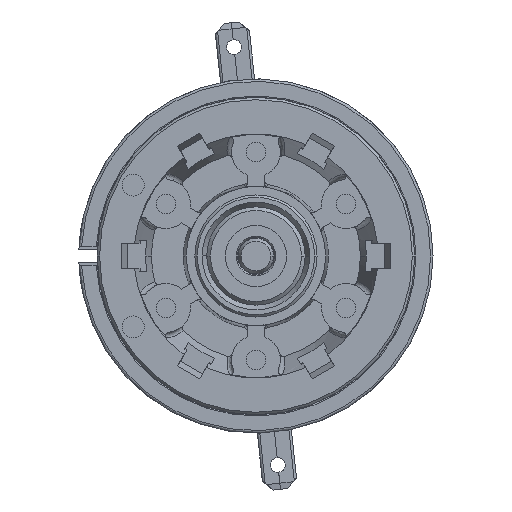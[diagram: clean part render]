
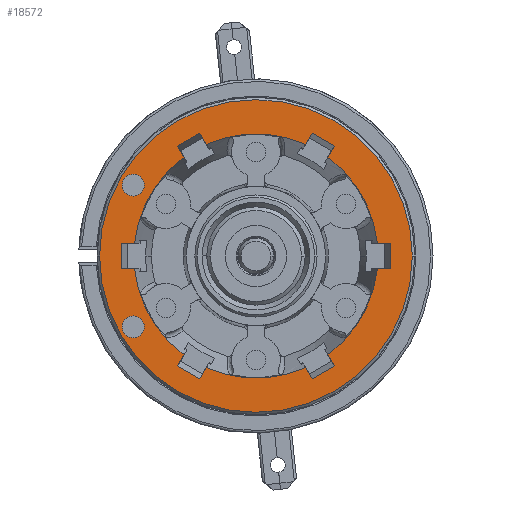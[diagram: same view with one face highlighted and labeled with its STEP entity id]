
A CAD part, left-side view. The second image highlights one B-rep face of the part: STEP entity #18572.
In plain terms, the highlighted planar face has unit normal (-1, 0, 0).
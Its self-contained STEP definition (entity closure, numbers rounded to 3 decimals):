
#6131=CARTESIAN_POINT('',(1.,0.,0.));
#6132=DIRECTION('',(-1.,0.,0.));
#6133=DIRECTION('',(0.,0.994,-0.105));
#6134=AXIS2_PLACEMENT_3D('',#6131,#6132,#6133);
#6144=CARTESIAN_POINT('',(1.,9.945,-1.05));
#6271=CARTESIAN_POINT('',(1.,-9.945,-1.05));
#6281=CARTESIAN_POINT('',(1.,0.,0.));
#6282=DIRECTION('',(-1.,0.,0.));
#6283=DIRECTION('',(0.,-0.588,-0.809));
#6284=AXIS2_PLACEMENT_3D('',#6281,#6282,#6283);
#6335=CARTESIAN_POINT('',(1.,-4.063,-9.137));
#6345=CARTESIAN_POINT('',(1.,0.,0.));
#6346=DIRECTION('',(-1.,0.,0.));
#6347=DIRECTION('',(0.,0.406,-0.914));
#6348=AXIS2_PLACEMENT_3D('',#6345,#6346,#6347);
#6468=CARTESIAN_POINT('',(1.,0.,0.));
#6469=DIRECTION('',(-1.,0.,0.));
#6470=DIRECTION('',(0.,1.,0.));
#6471=AXIS2_PLACEMENT_3D('',#6468,#6469,#6470);
#6476=CARTESIAN_POINT('',(1.,0.,0.));
#6477=DIRECTION('',(-1.,0.,0.));
#6478=DIRECTION('',(0.,-1.,0.));
#6479=AXIS2_PLACEMENT_3D('',#6476,#6477,#6478);
#6484=CARTESIAN_POINT('',(1.,10.05,5.8));
#6485=DIRECTION('',(-1.,0.,0.));
#6486=DIRECTION('',(0.,0.,1.));
#6487=AXIS2_PLACEMENT_3D('',#6484,#6485,#6486);
#6492=CARTESIAN_POINT('',(1.,10.05,5.8));
#6493=DIRECTION('',(-1.,0.,0.));
#6494=DIRECTION('',(0.,0.,-1.));
#6495=AXIS2_PLACEMENT_3D('',#6492,#6493,#6494);
#6500=CARTESIAN_POINT('',(1.,10.05,-5.8));
#6501=DIRECTION('',(-1.,0.,0.));
#6502=DIRECTION('',(0.,0.,1.));
#6503=AXIS2_PLACEMENT_3D('',#6500,#6501,#6502);
#6508=CARTESIAN_POINT('',(1.,10.05,-5.8));
#6509=DIRECTION('',(-1.,0.,0.));
#6510=DIRECTION('',(0.,0.,-1.));
#6511=AXIS2_PLACEMENT_3D('',#6508,#6509,#6510);
#6516=DIRECTION('',(0.,-0.5,0.866));
#6517=VECTOR('',#6516,1.055);
#6518=CARTESIAN_POINT('',(1.,4.591,-10.051));
#6519=LINE('',#6518,#6517);
#6523=DIRECTION('',(0.,-0.5,-0.866));
#6524=VECTOR('',#6523,1.055);
#6525=CARTESIAN_POINT('',(1.,-4.063,-9.137));
#6526=LINE('',#6525,#6524);
#6530=DIRECTION('',(0.,0.866,-0.5));
#6531=VECTOR('',#6530,2.1);
#6532=CARTESIAN_POINT('',(1.,-6.409,-9.001));
#6533=LINE('',#6532,#6531);
#6537=DIRECTION('',(0.,0.5,0.866));
#6538=VECTOR('',#6537,1.055);
#6539=CARTESIAN_POINT('',(1.,-6.409,-9.001));
#6540=LINE('',#6539,#6538);
#6544=DIRECTION('',(0.,-1.,0.));
#6545=VECTOR('',#6544,1.055);
#6546=CARTESIAN_POINT('',(1.,-9.945,-1.05));
#6547=LINE('',#6546,#6545);
#6551=DIRECTION('',(0.,0.,-1.));
#6552=VECTOR('',#6551,2.1);
#6553=CARTESIAN_POINT('',(1.,-11.,1.05));
#6554=LINE('',#6553,#6552);
#6558=DIRECTION('',(0.,1.,0.));
#6559=VECTOR('',#6558,1.055);
#6560=CARTESIAN_POINT('',(1.,-11.,1.05));
#6561=LINE('',#6560,#6559);
#6565=DIRECTION('',(0.,-0.5,0.866));
#6566=VECTOR('',#6565,1.055);
#6567=CARTESIAN_POINT('',(1.,-5.882,8.087));
#6568=LINE('',#6567,#6566);
#6572=DIRECTION('',(0.,-0.866,-0.5));
#6573=VECTOR('',#6572,2.1);
#6574=CARTESIAN_POINT('',(1.,-4.591,10.051));
#6575=LINE('',#6574,#6573);
#6579=DIRECTION('',(0.,0.5,-0.866));
#6580=VECTOR('',#6579,1.055);
#6581=CARTESIAN_POINT('',(1.,-4.591,10.051));
#6582=LINE('',#6581,#6580);
#6586=DIRECTION('',(0.,0.5,0.866));
#6587=VECTOR('',#6586,1.055);
#6588=CARTESIAN_POINT('',(1.,4.063,9.137));
#6589=LINE('',#6588,#6587);
#6593=DIRECTION('',(0.,-0.866,0.5));
#6594=VECTOR('',#6593,2.1);
#6595=CARTESIAN_POINT('',(1.,6.409,9.001));
#6596=LINE('',#6595,#6594);
#6600=DIRECTION('',(0.,-0.5,-0.866));
#6601=VECTOR('',#6600,1.055);
#6602=CARTESIAN_POINT('',(1.,6.409,9.001));
#6603=LINE('',#6602,#6601);
#6607=DIRECTION('',(0.,1.,0.));
#6608=VECTOR('',#6607,1.055);
#6609=CARTESIAN_POINT('',(1.,9.945,1.05));
#6610=LINE('',#6609,#6608);
#6614=DIRECTION('',(0.,0.,1.));
#6615=VECTOR('',#6614,2.1);
#6616=CARTESIAN_POINT('',(1.,11.,-1.05));
#6617=LINE('',#6616,#6615);
#6621=DIRECTION('',(0.,-1.,0.));
#6622=VECTOR('',#6621,1.055);
#6623=CARTESIAN_POINT('',(1.,11.,-1.05));
#6624=LINE('',#6623,#6622);
#6628=DIRECTION('',(0.,0.5,-0.866));
#6629=VECTOR('',#6628,1.055);
#6630=CARTESIAN_POINT('',(1.,5.882,-8.087));
#6631=LINE('',#6630,#6629);
#6635=DIRECTION('',(0.,0.866,0.5));
#6636=VECTOR('',#6635,2.1);
#6637=CARTESIAN_POINT('',(1.,4.591,-10.051));
#6638=LINE('',#6637,#6636);
#6988=CARTESIAN_POINT('',(1.,9.945,1.05));
#6998=CARTESIAN_POINT('',(1.,0.,0.));
#6999=DIRECTION('',(1.,0.,0.));
#7000=DIRECTION('',(0.,0.994,0.105));
#7001=AXIS2_PLACEMENT_3D('',#6998,#6999,#7000);
#7052=CARTESIAN_POINT('',(1.,4.063,9.137));
#7062=CARTESIAN_POINT('',(1.,0.,0.));
#7063=DIRECTION('',(1.,0.,0.));
#7064=DIRECTION('',(0.,0.406,0.914));
#7065=AXIS2_PLACEMENT_3D('',#7062,#7063,#7064);
#7116=CARTESIAN_POINT('',(1.,-5.882,8.087));
#7126=CARTESIAN_POINT('',(1.,0.,0.));
#7127=DIRECTION('',(1.,0.,0.));
#7128=DIRECTION('',(0.,-0.588,0.809));
#7129=AXIS2_PLACEMENT_3D('',#7126,#7127,#7128);
#10664=CARTESIAN_POINT('',(1.,12.8,0.));
#10665=CARTESIAN_POINT('',(1.,-12.8,0.));
#10666=VERTEX_POINT('',#10664);
#10667=VERTEX_POINT('',#10665);
#10680=CARTESIAN_POINT('',(1.,10.05,6.7));
#10681=CARTESIAN_POINT('',(1.,10.05,4.9));
#10682=VERTEX_POINT('',#10680);
#10683=VERTEX_POINT('',#10681);
#10684=CARTESIAN_POINT('',(1.,10.05,-4.9));
#10685=CARTESIAN_POINT('',(1.,10.05,-6.7));
#10686=VERTEX_POINT('',#10684);
#10687=VERTEX_POINT('',#10685);
#10904=VERTEX_POINT('',#6988);
#10905=VERTEX_POINT('',#6144);
#10906=CARTESIAN_POINT('',(1.,11.,-1.05));
#10907=VERTEX_POINT('',#10906);
#10908=CARTESIAN_POINT('',(1.,11.,1.05));
#10909=VERTEX_POINT('',#10908);
#10914=CARTESIAN_POINT('',(1.,5.882,8.087));
#10915=VERTEX_POINT('',#10914);
#10924=VERTEX_POINT('',#7052);
#10925=CARTESIAN_POINT('',(1.,6.409,9.001));
#10926=VERTEX_POINT('',#10925);
#10927=CARTESIAN_POINT('',(1.,4.591,10.051));
#10928=VERTEX_POINT('',#10927);
#10933=CARTESIAN_POINT('',(1.,-4.063,9.137));
#10934=VERTEX_POINT('',#10933);
#10943=VERTEX_POINT('',#7116);
#10944=CARTESIAN_POINT('',(1.,-4.591,10.051));
#10945=VERTEX_POINT('',#10944);
#10946=CARTESIAN_POINT('',(1.,-6.409,9.001));
#10947=VERTEX_POINT('',#10946);
#10954=CARTESIAN_POINT('',(1.,-9.945,1.05));
#10955=VERTEX_POINT('',#10954);
#10964=VERTEX_POINT('',#6271);
#10965=CARTESIAN_POINT('',(1.,-11.,1.05));
#10966=VERTEX_POINT('',#10965);
#10967=CARTESIAN_POINT('',(1.,-11.,-1.05));
#10968=VERTEX_POINT('',#10967);
#10973=CARTESIAN_POINT('',(1.,-5.882,-8.087));
#10974=VERTEX_POINT('',#10973);
#10983=VERTEX_POINT('',#6335);
#10984=CARTESIAN_POINT('',(1.,-6.409,-9.001));
#10985=VERTEX_POINT('',#10984);
#10986=CARTESIAN_POINT('',(1.,-4.591,-10.051));
#10987=VERTEX_POINT('',#10986);
#10992=CARTESIAN_POINT('',(1.,5.882,-8.087));
#10993=VERTEX_POINT('',#10992);
#10994=CARTESIAN_POINT('',(1.,4.063,-9.137));
#10995=VERTEX_POINT('',#10994);
#11004=CARTESIAN_POINT('',(1.,4.591,-10.051));
#11005=VERTEX_POINT('',#11004);
#11006=CARTESIAN_POINT('',(1.,6.409,-9.001));
#11007=VERTEX_POINT('',#11006);
#18504=CARTESIAN_POINT('',(1.,0.,0.));
#18505=DIRECTION('',(1.,0.,0.));
#18506=DIRECTION('',(0.,-1.,0.));
#18507=AXIS2_PLACEMENT_3D('',#18504,#18505,#18506);
#18508=PLANE('',#18507);
#18510=ORIENTED_EDGE('',*,*,#18509,.F.);
#18512=ORIENTED_EDGE('',*,*,#18511,.F.);
#18513=EDGE_LOOP('',(#18510,#18512));
#18514=FACE_OUTER_BOUND('',#18513,.F.);
#18516=ORIENTED_EDGE('',*,*,#18515,.T.);
#18518=ORIENTED_EDGE('',*,*,#18517,.T.);
#18519=EDGE_LOOP('',(#18516,#18518));
#18520=FACE_BOUND('',#18519,.F.);
#18522=ORIENTED_EDGE('',*,*,#18521,.T.);
#18524=ORIENTED_EDGE('',*,*,#18523,.T.);
#18525=EDGE_LOOP('',(#18522,#18524));
#18526=FACE_BOUND('',#18525,.F.);
#18527=ORIENTED_EDGE('',*,*,#18471,.T.);
#18528=ORIENTED_EDGE('',*,*,#18327,.T.);
#18530=ORIENTED_EDGE('',*,*,#18529,.T.);
#18532=ORIENTED_EDGE('',*,*,#18531,.F.);
#18534=ORIENTED_EDGE('',*,*,#18533,.T.);
#18535=ORIENTED_EDGE('',*,*,#18311,.T.);
#18537=ORIENTED_EDGE('',*,*,#18536,.T.);
#18539=ORIENTED_EDGE('',*,*,#18538,.F.);
#18541=ORIENTED_EDGE('',*,*,#18540,.T.);
#18543=ORIENTED_EDGE('',*,*,#18542,.F.);
#18545=ORIENTED_EDGE('',*,*,#18544,.T.);
#18547=ORIENTED_EDGE('',*,*,#18546,.F.);
#18549=ORIENTED_EDGE('',*,*,#18548,.T.);
#18551=ORIENTED_EDGE('',*,*,#18550,.F.);
#18553=ORIENTED_EDGE('',*,*,#18552,.T.);
#18555=ORIENTED_EDGE('',*,*,#18554,.F.);
#18557=ORIENTED_EDGE('',*,*,#18556,.T.);
#18559=ORIENTED_EDGE('',*,*,#18558,.F.);
#18561=ORIENTED_EDGE('',*,*,#18560,.T.);
#18563=ORIENTED_EDGE('',*,*,#18562,.F.);
#18565=ORIENTED_EDGE('',*,*,#18564,.T.);
#18566=ORIENTED_EDGE('',*,*,#18266,.T.);
#18568=ORIENTED_EDGE('',*,*,#18567,.T.);
#18569=ORIENTED_EDGE('',*,*,#18488,.F.);
#18570=EDGE_LOOP('',(#18527,#18528,#18530,#18532,#18534,#18535,#18537,#18539,
#18541,#18543,#18545,#18547,#18549,#18551,#18553,#18555,#18557,#18559,#18561,
#18563,#18565,#18566,#18568,#18569));
#18571=FACE_BOUND('',#18570,.F.);
#18572=ADVANCED_FACE('',(#18514,#18520,#18526,#18571),#18508,.F.);
#6135=CIRCLE('',#6134,10.);
#6285=CIRCLE('',#6284,10.);
#6349=CIRCLE('',#6348,10.);
#6472=CIRCLE('',#6471,12.8);
#6480=CIRCLE('',#6479,12.8);
#6488=CIRCLE('',#6487,0.9);
#6496=CIRCLE('',#6495,0.9);
#6504=CIRCLE('',#6503,0.9);
#6512=CIRCLE('',#6511,0.9);
#7002=CIRCLE('',#7001,10.);
#7066=CIRCLE('',#7065,10.);
#7130=CIRCLE('',#7129,10.);
#18266=EDGE_CURVE('',#10905,#10993,#6135,.T.);
#18311=EDGE_CURVE('',#10974,#10964,#6285,.T.);
#18327=EDGE_CURVE('',#10995,#10983,#6349,.T.);
#18471=EDGE_CURVE('',#11005,#10995,#6519,.T.);
#18488=EDGE_CURVE('',#11005,#11007,#6638,.T.);
#18509=EDGE_CURVE('',#10666,#10667,#6472,.T.);
#18511=EDGE_CURVE('',#10667,#10666,#6480,.T.);
#18515=EDGE_CURVE('',#10682,#10683,#6488,.T.);
#18517=EDGE_CURVE('',#10683,#10682,#6496,.T.);
#18521=EDGE_CURVE('',#10686,#10687,#6504,.T.);
#18523=EDGE_CURVE('',#10687,#10686,#6512,.T.);
#18529=EDGE_CURVE('',#10983,#10987,#6526,.T.);
#18531=EDGE_CURVE('',#10985,#10987,#6533,.T.);
#18533=EDGE_CURVE('',#10985,#10974,#6540,.T.);
#18536=EDGE_CURVE('',#10964,#10968,#6547,.T.);
#18538=EDGE_CURVE('',#10966,#10968,#6554,.T.);
#18540=EDGE_CURVE('',#10966,#10955,#6561,.T.);
#18542=EDGE_CURVE('',#10943,#10955,#7130,.T.);
#18544=EDGE_CURVE('',#10943,#10947,#6568,.T.);
#18546=EDGE_CURVE('',#10945,#10947,#6575,.T.);
#18548=EDGE_CURVE('',#10945,#10934,#6582,.T.);
#18550=EDGE_CURVE('',#10924,#10934,#7066,.T.);
#18552=EDGE_CURVE('',#10924,#10928,#6589,.T.);
#18554=EDGE_CURVE('',#10926,#10928,#6596,.T.);
#18556=EDGE_CURVE('',#10926,#10915,#6603,.T.);
#18558=EDGE_CURVE('',#10904,#10915,#7002,.T.);
#18560=EDGE_CURVE('',#10904,#10909,#6610,.T.);
#18562=EDGE_CURVE('',#10907,#10909,#6617,.T.);
#18564=EDGE_CURVE('',#10907,#10905,#6624,.T.);
#18567=EDGE_CURVE('',#10993,#11007,#6631,.T.);
